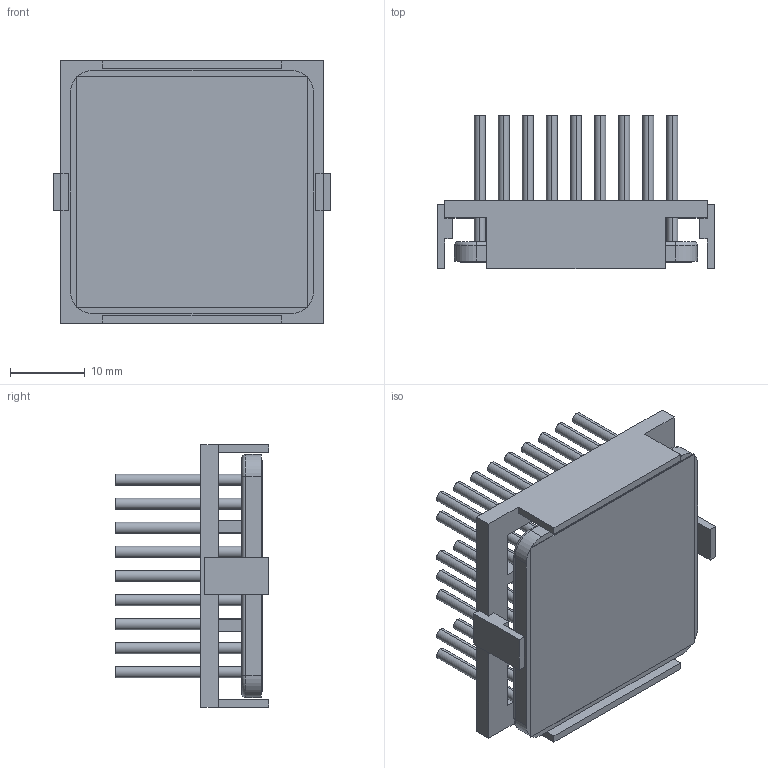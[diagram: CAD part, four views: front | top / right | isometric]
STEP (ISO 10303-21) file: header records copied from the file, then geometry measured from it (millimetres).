
FILE_DESCRIPTION (( 'STEP AP214' ), '1' );
FILE_NAME ('INM33002-20P-2.6O.STEP', '2023-03-02T20:08:46', ( '' ), ( '' ), 'SwSTEP 2.0', 'SolidWorks 2020', '' );
FILE_SCHEMA (( 'AUTOMOTIVE_DESIGN' ));
Length unit declared in the file: inch
Products named in the file (1): INM33002-20P-2.6O
Bounding box: 37.2 x 20.6 x 35.2 mm (x, y, z)
Volume: 6659.3 mm3; surface area: 12836.4 mm2
Topology: 3 solids, 3 shells, 301 faces, 658 edges, 436 vertices
Faces by surface type: cylinder 154, plane 143, torus 4
Entity records: 12339 total; most frequent: DIRECTION 1574, CARTESIAN_POINT 1396, ORIENTED_EDGE 1316, EDGE_CURVE 658, AXIS2_PLACEMENT_3D 614, VERTEX_POINT 436, EDGE_LOOP 376, VECTOR 346
